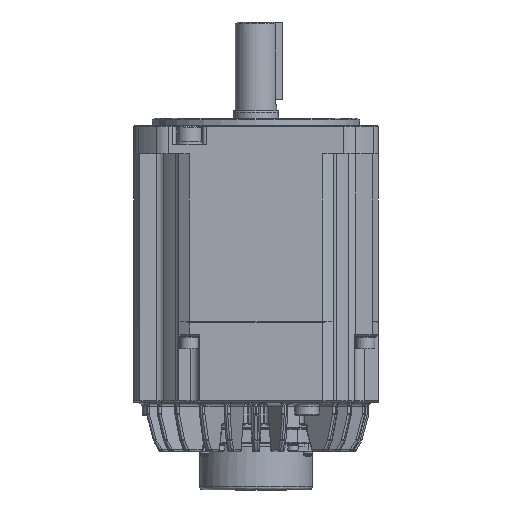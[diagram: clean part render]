
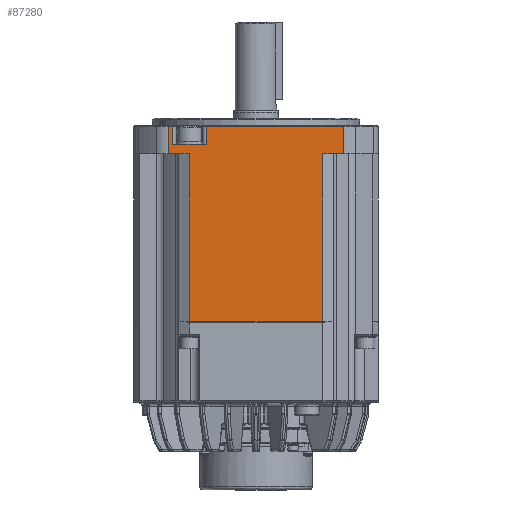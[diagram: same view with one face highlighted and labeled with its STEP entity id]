
A CAD part, front view. The second image highlights one B-rep face of the part: STEP entity #87280.
In plain terms, the highlighted planar face has unit normal (0, 1, 0).
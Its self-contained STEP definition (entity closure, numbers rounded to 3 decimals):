
#40 = ORIENTED_EDGE ( 'NONE', *, *, #130383, .T. ) ;
#304 = DIRECTION ( 'NONE',  ( 0., 0., -1. ) ) ;
#2310 = ORIENTED_EDGE ( 'NONE', *, *, #93081, .T. ) ;
#2940 = CARTESIAN_POINT ( 'NONE',  ( 54.228, -19.42, 274.469 ) ) ;
#3072 = VERTEX_POINT ( 'NONE', #122480 ) ;
#6975 = DIRECTION ( 'NONE',  ( 0., 0., 1. ) ) ;
#7105 = LINE ( 'NONE', #130630, #31297 ) ;
#10979 = VECTOR ( 'NONE', #135905, 1000. ) ;
#11821 = VECTOR ( 'NONE', #80879, 1000. ) ;
#12583 = ORIENTED_EDGE ( 'NONE', *, *, #141137, .T. ) ;
#13298 = LINE ( 'NONE', #136995, #80538 ) ;
#16027 = ORIENTED_EDGE ( 'NONE', *, *, #51640, .T. ) ;
#17109 = EDGE_CURVE ( 'NONE', #95339, #103230, #117416, .T. ) ;
#18066 = LINE ( 'NONE', #60378, #109540 ) ;
#21032 = LINE ( 'NONE', #83801, #84533 ) ;
#21067 = DIRECTION ( 'NONE',  ( 0., 0., 1. ) ) ;
#21774 = ORIENTED_EDGE ( 'NONE', *, *, #17109, .T. ) ;
#22134 = VECTOR ( 'NONE', #28389, 1000. ) ;
#23010 = LINE ( 'NONE', #55196, #54798 ) ;
#27724 = EDGE_CURVE ( 'NONE', #119793, #102170, #13298, .T. ) ;
#28389 = DIRECTION ( 'NONE',  ( 0., 0., 1. ) ) ;
#28773 = CARTESIAN_POINT ( 'NONE',  ( 137.982, -19.42, 284.169 ) ) ;
#29345 = VERTEX_POINT ( 'NONE', #70780 ) ;
#29751 = EDGE_CURVE ( 'NONE', #100085, #60857, #71101, .T. ) ;
#30692 = VERTEX_POINT ( 'NONE', #148663 ) ;
#31297 = VECTOR ( 'NONE', #47031, 1000. ) ;
#31927 = CARTESIAN_POINT ( 'NONE',  ( 56.016, -19.42, 269.469 ) ) ;
#32835 = CARTESIAN_POINT ( 'NONE',  ( 127.017, -19.42, 283.969 ) ) ;
#33038 = CARTESIAN_POINT ( 'NONE',  ( 65.017, -19.42, 283.969 ) ) ;
#33402 = AXIS2_PLACEMENT_3D ( 'NONE', #149989, #78429, #6975 ) ;
#36784 = EDGE_CURVE ( 'NONE', #103230, #59113, #74467, .T. ) ;
#37147 = VERTEX_POINT ( 'NONE', #96560 ) ;
#38127 = CARTESIAN_POINT ( 'NONE',  ( 45.052, -19.42, 269.469 ) ) ;
#39686 = EDGE_LOOP ( 'NONE', ( #98715, #16027, #40, #77999, #2310, #12583, #42714, #21774, #85902, #114383, #101275, #133156, #45184, #76110, #56915 ) ) ;
#42714 = ORIENTED_EDGE ( 'NONE', *, *, #142695, .T. ) ;
#45184 = ORIENTED_EDGE ( 'NONE', *, *, #114139, .T. ) ;
#45907 = VERTEX_POINT ( 'NONE', #31927 ) ;
#47031 = DIRECTION ( 'NONE',  ( 1., 0., 0. ) ) ;
#47820 = LINE ( 'NONE', #81313, #107655 ) ;
#48816 = LINE ( 'NONE', #57416, #88153 ) ;
#51640 = EDGE_CURVE ( 'NONE', #95543, #3072, #23010, .T. ) ;
#53413 = DIRECTION ( 'NONE',  ( 1., 0., 0. ) ) ;
#54430 = PLANE ( 'NONE',  #33402 ) ;
#54798 = VECTOR ( 'NONE', #138742, 1000. ) ;
#55196 = CARTESIAN_POINT ( 'NONE',  ( 137.982, -19.42, 269.469 ) ) ;
#56915 = ORIENTED_EDGE ( 'NONE', *, *, #106370, .T. ) ;
#57416 = CARTESIAN_POINT ( 'NONE',  ( 137.982, -19.42, 274.469 ) ) ;
#59113 = VERTEX_POINT ( 'NONE', #122593 ) ;
#60378 = CARTESIAN_POINT ( 'NONE',  ( 137.982, -19.42, 180.469 ) ) ;
#60430 = CARTESIAN_POINT ( 'NONE',  ( 137.982, -19.42, 284.169 ) ) ;
#60857 = VERTEX_POINT ( 'NONE', #120469 ) ;
#61963 = VERTEX_POINT ( 'NONE', #148007 ) ;
#62896 = VERTEX_POINT ( 'NONE', #60430 ) ;
#63519 = CARTESIAN_POINT ( 'NONE',  ( 45.052, -19.42, 284.169 ) ) ;
#66201 = VECTOR ( 'NONE', #126045, 1000. ) ;
#69157 = CARTESIAN_POINT ( 'NONE',  ( 57.805, -19.42, 274.469 ) ) ;
#69422 = DIRECTION ( 'NONE',  ( 1., 0., 0. ) ) ;
#70780 = CARTESIAN_POINT ( 'NONE',  ( 91.517, -19.42, 180.469 ) ) ;
#71101 = LINE ( 'NONE', #33038, #138425 ) ;
#74467 = LINE ( 'NONE', #28773, #10979 ) ;
#74903 = CARTESIAN_POINT ( 'NONE',  ( 47.017, -19.42, 283.969 ) ) ;
#76110 = ORIENTED_EDGE ( 'NONE', *, *, #29751, .T. ) ;
#76542 = CARTESIAN_POINT ( 'NONE',  ( 137.982, -19.42, 180.469 ) ) ;
#77265 = DIRECTION ( 'NONE',  ( -1., 0., 0. ) ) ;
#77999 = ORIENTED_EDGE ( 'NONE', *, *, #116759, .T. ) ;
#78429 = DIRECTION ( 'NONE',  ( 0., 1., 0. ) ) ;
#80538 = VECTOR ( 'NONE', #53413, 1000. ) ;
#80879 = DIRECTION ( 'NONE',  ( 0., 0., -1. ) ) ;
#81313 = CARTESIAN_POINT ( 'NONE',  ( 137.982, -19.42, 284.169 ) ) ;
#82974 = LINE ( 'NONE', #88253, #111006 ) ;
#83801 = CARTESIAN_POINT ( 'NONE',  ( 137.982, -19.42, 283.969 ) ) ;
#84533 = VECTOR ( 'NONE', #304, 1000. ) ;
#85902 = ORIENTED_EDGE ( 'NONE', *, *, #36784, .T. ) ;
#87280 = ADVANCED_FACE ( 'NONE', ( #89772 ), #54430, .T. ) ;
#88153 = VECTOR ( 'NONE', #69422, 1000. ) ;
#88253 = CARTESIAN_POINT ( 'NONE',  ( 137.982, -19.42, 269.469 ) ) ;
#89286 = VECTOR ( 'NONE', #146464, 1000. ) ;
#89772 = FACE_OUTER_BOUND ( 'NONE', #39686, .T. ) ;
#90239 = EDGE_CURVE ( 'NONE', #30692, #119793, #7105, .T. ) ;
#93081 = EDGE_CURVE ( 'NONE', #29345, #37147, #18066, .T. ) ;
#93345 = DIRECTION ( 'NONE',  ( 1., 0., 0. ) ) ;
#95339 = VERTEX_POINT ( 'NONE', #38127 ) ;
#95543 = VERTEX_POINT ( 'NONE', #146626 ) ;
#96560 = CARTESIAN_POINT ( 'NONE',  ( 56.016, -19.42, 180.469 ) ) ;
#97953 = LINE ( 'NONE', #149536, #66201 ) ;
#98108 = EDGE_CURVE ( 'NONE', #62896, #95543, #21032, .T. ) ;
#98715 = ORIENTED_EDGE ( 'NONE', *, *, #98108, .T. ) ;
#99966 = CARTESIAN_POINT ( 'NONE',  ( 45.052, -19.42, 283.969 ) ) ;
#100039 = DIRECTION ( 'NONE',  ( -1., 0., 0. ) ) ;
#100085 = VERTEX_POINT ( 'NONE', #115536 ) ;
#101275 = ORIENTED_EDGE ( 'NONE', *, *, #90239, .T. ) ;
#102170 = VERTEX_POINT ( 'NONE', #69157 ) ;
#103230 = VERTEX_POINT ( 'NONE', #63519 ) ;
#106370 = EDGE_CURVE ( 'NONE', #60857, #62896, #47820, .T. ) ;
#107071 = LINE ( 'NONE', #32835, #11821 ) ;
#107655 = VECTOR ( 'NONE', #93345, 1000. ) ;
#109540 = VECTOR ( 'NONE', #131920, 1000. ) ;
#111006 = VECTOR ( 'NONE', #77265, 1000. ) ;
#114139 = EDGE_CURVE ( 'NONE', #102170, #100085, #48816, .T. ) ;
#114383 = ORIENTED_EDGE ( 'NONE', *, *, #137435, .T. ) ;
#115536 = CARTESIAN_POINT ( 'NONE',  ( 65.017, -19.42, 274.469 ) ) ;
#116759 = EDGE_CURVE ( 'NONE', #61963, #29345, #147516, .T. ) ;
#117416 = LINE ( 'NONE', #99966, #22134 ) ;
#119793 = VERTEX_POINT ( 'NONE', #2940 ) ;
#120469 = CARTESIAN_POINT ( 'NONE',  ( 65.017, -19.42, 284.169 ) ) ;
#122480 = CARTESIAN_POINT ( 'NONE',  ( 127.017, -19.42, 269.469 ) ) ;
#122593 = CARTESIAN_POINT ( 'NONE',  ( 47.017, -19.42, 284.169 ) ) ;
#126045 = DIRECTION ( 'NONE',  ( 0., 0., 1. ) ) ;
#130383 = EDGE_CURVE ( 'NONE', #3072, #61963, #107071, .T. ) ;
#130630 = CARTESIAN_POINT ( 'NONE',  ( 137.982, -19.42, 274.469 ) ) ;
#131920 = DIRECTION ( 'NONE',  ( -1., 0., 0. ) ) ;
#133156 = ORIENTED_EDGE ( 'NONE', *, *, #27724, .T. ) ;
#135905 = DIRECTION ( 'NONE',  ( 1., 0., 0. ) ) ;
#136995 = CARTESIAN_POINT ( 'NONE',  ( 137.982, -19.42, 274.469 ) ) ;
#137435 = EDGE_CURVE ( 'NONE', #59113, #30692, #152767, .T. ) ;
#138425 = VECTOR ( 'NONE', #21067, 1000. ) ;
#138742 = DIRECTION ( 'NONE',  ( -1., 0., 0. ) ) ;
#141137 = EDGE_CURVE ( 'NONE', #37147, #45907, #97953, .T. ) ;
#142695 = EDGE_CURVE ( 'NONE', #45907, #95339, #82974, .T. ) ;
#146464 = DIRECTION ( 'NONE',  ( 0., 0., -1. ) ) ;
#146626 = CARTESIAN_POINT ( 'NONE',  ( 137.982, -19.42, 269.469 ) ) ;
#147516 = LINE ( 'NONE', #76542, #151215 ) ;
#148007 = CARTESIAN_POINT ( 'NONE',  ( 127.017, -19.42, 180.469 ) ) ;
#148663 = CARTESIAN_POINT ( 'NONE',  ( 47.017, -19.42, 274.469 ) ) ;
#149536 = CARTESIAN_POINT ( 'NONE',  ( 56.016, -19.42, 283.969 ) ) ;
#149989 = CARTESIAN_POINT ( 'NONE',  ( 137.982, -19.42, 283.969 ) ) ;
#151215 = VECTOR ( 'NONE', #100039, 1000. ) ;
#152767 = LINE ( 'NONE', #74903, #89286 ) ;
